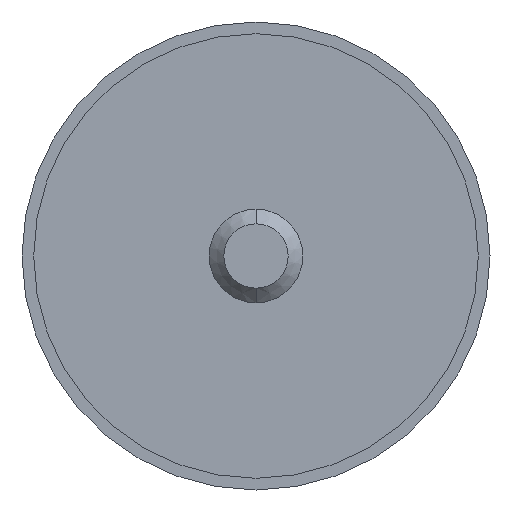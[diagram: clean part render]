
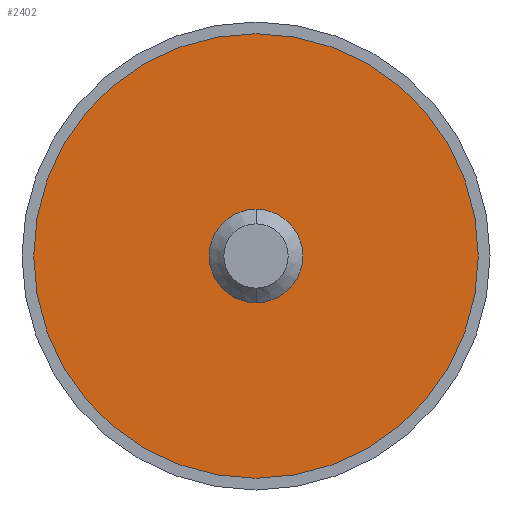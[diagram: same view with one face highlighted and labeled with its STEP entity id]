
A CAD part, front view. The second image highlights one B-rep face of the part: STEP entity #2402.
In plain terms, the highlighted planar face has unit normal (0, -1, 0).
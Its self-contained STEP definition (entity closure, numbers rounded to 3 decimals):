
#99 = CIRCLE ( 'NONE', #979, 19. ) ;
#116 = AXIS2_PLACEMENT_3D ( 'NONE', #3166, #466, #1351 ) ;
#120 = ORIENTED_EDGE ( 'NONE', *, *, #877, .F. ) ;
#167 = DIRECTION ( 'NONE',  ( 0., -1., 0. ) ) ;
#441 = AXIS2_PLACEMENT_3D ( 'NONE', #1345, #3460, #1650 ) ;
#466 = DIRECTION ( 'NONE',  ( 0., 1., 0. ) ) ;
#483 = DIRECTION ( 'NONE',  ( 0., 0., -1. ) ) ;
#501 = CIRCLE ( 'NONE', #1921, 4. ) ;
#741 = DIRECTION ( 'NONE',  ( 0., 1., 0. ) ) ;
#753 = CARTESIAN_POINT ( 'NONE',  ( 0., -0.5, 0. ) ) ;
#787 = VERTEX_POINT ( 'NONE', #2297 ) ;
#857 = EDGE_CURVE ( 'NONE', #787, #1683, #2009, .T. ) ;
#877 = EDGE_CURVE ( 'NONE', #912, #3374, #501, .T. ) ;
#903 = AXIS2_PLACEMENT_3D ( 'NONE', #2332, #167, #483 ) ;
#912 = VERTEX_POINT ( 'NONE', #1220 ) ;
#979 = AXIS2_PLACEMENT_3D ( 'NONE', #753, #741, #1957 ) ;
#1038 = ORIENTED_EDGE ( 'NONE', *, *, #2475, .F. ) ;
#1220 = CARTESIAN_POINT ( 'NONE',  ( 0., -0.5, 4. ) ) ;
#1295 = EDGE_LOOP ( 'NONE', ( #120, #1038 ) ) ;
#1345 = CARTESIAN_POINT ( 'NONE',  ( 0., -0.5, 0. ) ) ;
#1351 = DIRECTION ( 'NONE',  ( 0., 0., 1. ) ) ;
#1650 = DIRECTION ( 'NONE',  ( 0., 0., 1. ) ) ;
#1683 = VERTEX_POINT ( 'NONE', #2720 ) ;
#1856 = DIRECTION ( 'NONE',  ( 0., 0., -1. ) ) ;
#1921 = AXIS2_PLACEMENT_3D ( 'NONE', #3331, #3660, #1856 ) ;
#1957 = DIRECTION ( 'NONE',  ( 0., 0., 1. ) ) ;
#1964 = CARTESIAN_POINT ( 'NONE',  ( 0., -0.5, -4. ) ) ;
#2009 = CIRCLE ( 'NONE', #441, 19. ) ;
#2066 = EDGE_LOOP ( 'NONE', ( #2919, #2531 ) ) ;
#2131 = FACE_BOUND ( 'NONE', #1295, .T. ) ;
#2179 = EDGE_CURVE ( 'NONE', #1683, #787, #99, .T. ) ;
#2297 = CARTESIAN_POINT ( 'NONE',  ( 0., -0.5, 19. ) ) ;
#2332 = CARTESIAN_POINT ( 'NONE',  ( 0., -0.5, 0. ) ) ;
#2402 = ADVANCED_FACE ( 'NONE', ( #2131, #2831 ), #3764, .F. ) ;
#2475 = EDGE_CURVE ( 'NONE', #3374, #912, #3270, .T. ) ;
#2531 = ORIENTED_EDGE ( 'NONE', *, *, #2179, .F. ) ;
#2720 = CARTESIAN_POINT ( 'NONE',  ( 0., -0.5, -19. ) ) ;
#2831 = FACE_OUTER_BOUND ( 'NONE', #2066, .T. ) ;
#2919 = ORIENTED_EDGE ( 'NONE', *, *, #857, .F. ) ;
#3166 = CARTESIAN_POINT ( 'NONE',  ( 0., -0.5, 0. ) ) ;
#3270 = CIRCLE ( 'NONE', #903, 4. ) ;
#3331 = CARTESIAN_POINT ( 'NONE',  ( 0., -0.5, 0. ) ) ;
#3374 = VERTEX_POINT ( 'NONE', #1964 ) ;
#3460 = DIRECTION ( 'NONE',  ( 0., 1., 0. ) ) ;
#3660 = DIRECTION ( 'NONE',  ( 0., -1., 0. ) ) ;
#3764 = PLANE ( 'NONE',  #116 ) ;
